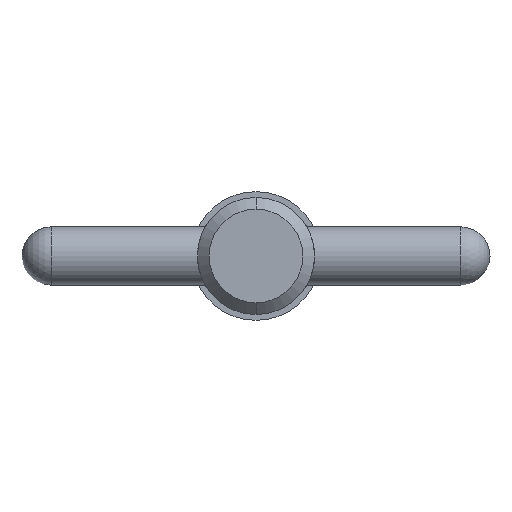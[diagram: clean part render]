
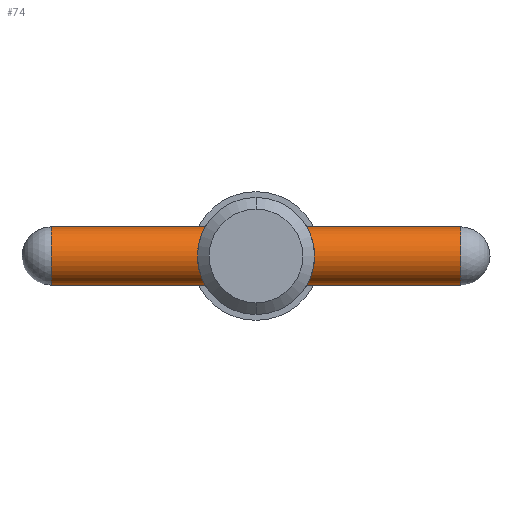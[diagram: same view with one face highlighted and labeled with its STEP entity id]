
A CAD part, left-side view. The second image highlights one B-rep face of the part: STEP entity #74.
In plain terms, the highlighted cylindrical face has radius 1.585 mm (diameter 3.17 mm), a partial arc.
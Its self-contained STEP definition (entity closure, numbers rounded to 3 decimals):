
#74 = ADVANCED_FACE ( 'NONE', ( #597 ), #790, .T. ) ;
#88 = DIRECTION ( 'NONE',  ( 0., 0., -1. ) ) ;
#102 = VERTEX_POINT ( 'NONE', #181 ) ;
#119 = ORIENTED_EDGE ( 'NONE', *, *, #514, .T. ) ;
#122 = CARTESIAN_POINT ( 'NONE',  ( 0., 11.115, 0. ) ) ;
#138 = EDGE_CURVE ( 'NONE', #102, #177, #538, .T. ) ;
#147 = CIRCLE ( 'NONE', #902, 1.585 ) ;
#160 = VECTOR ( 'NONE', #964, 1000. ) ;
#162 = DIRECTION ( 'NONE',  ( 0., -1., 0. ) ) ;
#177 = VERTEX_POINT ( 'NONE', #731 ) ;
#181 = CARTESIAN_POINT ( 'NONE',  ( 0., 11.115, 1.585 ) ) ;
#244 = LINE ( 'NONE', #778, #530 ) ;
#257 = VERTEX_POINT ( 'NONE', #403 ) ;
#314 = DIRECTION ( 'NONE',  ( 0., 0., -1. ) ) ;
#315 = EDGE_LOOP ( 'NONE', ( #471, #453, #119, #906 ) ) ;
#317 = DIRECTION ( 'NONE',  ( 0., 1., 0. ) ) ;
#376 = AXIS2_PLACEMENT_3D ( 'NONE', #911, #769, #88 ) ;
#403 = CARTESIAN_POINT ( 'NONE',  ( 0., 11.115, -1.585 ) ) ;
#453 = ORIENTED_EDGE ( 'NONE', *, *, #701, .T. ) ;
#471 = ORIENTED_EDGE ( 'NONE', *, *, #138, .F. ) ;
#514 = EDGE_CURVE ( 'NONE', #257, #693, #244, .T. ) ;
#530 = VECTOR ( 'NONE', #162, 1000. ) ;
#538 = LINE ( 'NONE', #939, #160 ) ;
#543 = EDGE_CURVE ( 'NONE', #693, #177, #147, .T. ) ;
#584 = DIRECTION ( 'NONE',  ( 0., 0., -1. ) ) ;
#597 = FACE_OUTER_BOUND ( 'NONE', #315, .T. ) ;
#664 = DIRECTION ( 'NONE',  ( 0., -1., 0. ) ) ;
#687 = AXIS2_PLACEMENT_3D ( 'NONE', #122, #664, #584 ) ;
#693 = VERTEX_POINT ( 'NONE', #800 ) ;
#701 = EDGE_CURVE ( 'NONE', #102, #257, #753, .T. ) ;
#731 = CARTESIAN_POINT ( 'NONE',  ( 0., -11.115, 1.585 ) ) ;
#753 = CIRCLE ( 'NONE', #687, 1.585 ) ;
#769 = DIRECTION ( 'NONE',  ( 0., -1., 0. ) ) ;
#778 = CARTESIAN_POINT ( 'NONE',  ( 0., 12.7, -1.585 ) ) ;
#781 = CARTESIAN_POINT ( 'NONE',  ( 0., -11.115, 0. ) ) ;
#790 = CYLINDRICAL_SURFACE ( 'NONE', #376, 1.585 ) ;
#800 = CARTESIAN_POINT ( 'NONE',  ( 0., -11.115, -1.585 ) ) ;
#902 = AXIS2_PLACEMENT_3D ( 'NONE', #781, #317, #314 ) ;
#906 = ORIENTED_EDGE ( 'NONE', *, *, #543, .T. ) ;
#911 = CARTESIAN_POINT ( 'NONE',  ( 0., 12.7, 0. ) ) ;
#939 = CARTESIAN_POINT ( 'NONE',  ( 0., 12.7, 1.585 ) ) ;
#964 = DIRECTION ( 'NONE',  ( 0., -1., 0. ) ) ;
